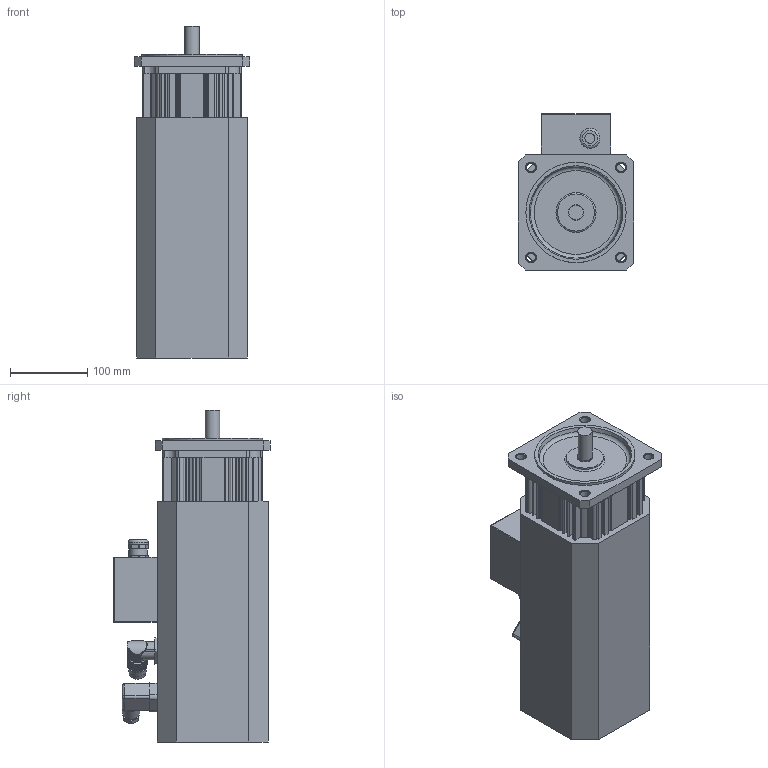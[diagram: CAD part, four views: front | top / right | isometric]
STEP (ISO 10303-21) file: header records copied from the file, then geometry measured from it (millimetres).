
FILE_DESCRIPTION(/* description */ (''),/* implementation_level */ '2;1');
FILE_NAME(/* name */ 'KSA6412_FS_Ix',/* time_stamp */ '2009-02-26T15:46:34+01:00',/* author */ (''),/* organization */ (''),/* preprocessor_version */ 'ST-DEVELOPER v8',/* originating_system */ 'UNIGRAPHICS SOLUTIONS - UNIGRAPHICS 18.0',/* authorisation */ '');
FILE_SCHEMA (('AUTOMOTIVE_DESIGN { 1 2 10303 214 0 1 1 1 }'));
Length unit declared in the file: millimetre
Products named in the file (8): 0280391350_0; Winkelflanschdose_0; 014146_0; 014145_0; LagerschAS_0; 089106X_0; Klemmenkasten_0; KSA648_FS_Ix_0
Assembly tree (7 placements, depth 3):
  KSA648_FS_Ix_0
    089106X_0
    LagerschAS_0
    Klemmenkasten_0
      0280391350_0
    014145_0
    014146_0
    Winkelflanschdose_0
Bounding box: 149 x 202.35 x 430 mm (x, y, z)
Volume: 7448118.2 mm3; surface area: 504313.9 mm2
Topology: 8 solids, 8 shells, 762 faces, 2109 edges, 1383 vertices
Faces by surface type: cylinder 447, plane 283, cone 16, sphere 8, torus 4, bspline 4
Full cylindrical faces by diameter (mm): 3.2 x1, 3.5 x4, 4.5 x1, 5 x2, 6.5 x4, 13 x2, 16 x1, 17 x1, 18 x1, 19 x1, 20 x3, 21 x1, 21.5 x1, 22.5 x1, 23 x2, 24 x1, 26 x1, 48 x1, 119.7 x2, 122 x1, 130 x1
Entity records: 24850 total; most frequent: CARTESIAN_POINT 4930, DIRECTION 4230, ORIENTED_EDGE 4082, EDGE_CURVE 2041, AXIS2_PLACEMENT_3D 1579, VERTEX_POINT 1372, LINE 1072, VECTOR 1072
